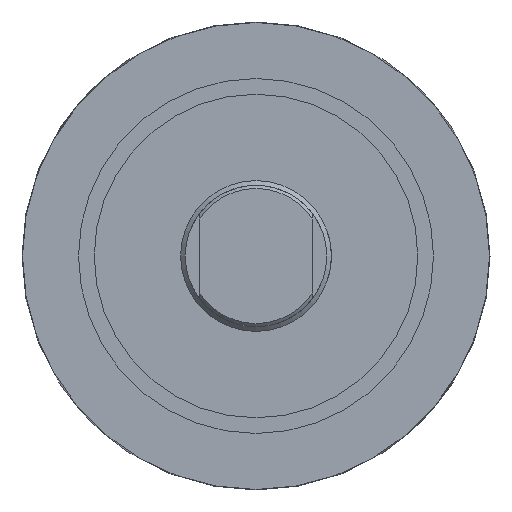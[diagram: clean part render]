
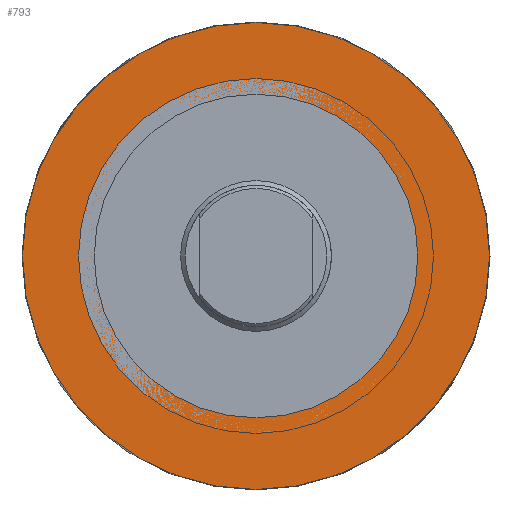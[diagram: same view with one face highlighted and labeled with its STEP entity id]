
A CAD part, left-side view. The second image highlights one B-rep face of the part: STEP entity #793.
In plain terms, the highlighted planar face has unit normal (-1, 0, 0).
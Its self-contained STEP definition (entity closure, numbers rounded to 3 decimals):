
#146=FACE_OUTER_BOUND('',#199,.T.);
#199=EDGE_LOOP('',(#585));
#258=CIRCLE('',#897,74.331);
#335=VERTEX_POINT('',#1415);
#427=EDGE_CURVE('',#335,#335,#258,.T.);
#585=ORIENTED_EDGE('',*,*,#427,.T.);
#699=PLANE('',#896);
#793=ADVANCED_FACE('',(#146),#699,.T.);
#896=AXIS2_PLACEMENT_3D('',#1414,#1083,#1084);
#897=AXIS2_PLACEMENT_3D('',#1416,#1085,#1086);
#1083=DIRECTION('center_axis',(-1.,0.,0.));
#1084=DIRECTION('ref_axis',(0.,0.,-1.));
#1085=DIRECTION('center_axis',(-1.,0.,0.));
#1086=DIRECTION('ref_axis',(0.,0.,1.));
#1414=CARTESIAN_POINT('Origin',(108.8,-65.416,0.));
#1415=CARTESIAN_POINT('',(108.8,0.,-74.331));
#1416=CARTESIAN_POINT('Origin',(108.8,0.,0.));
